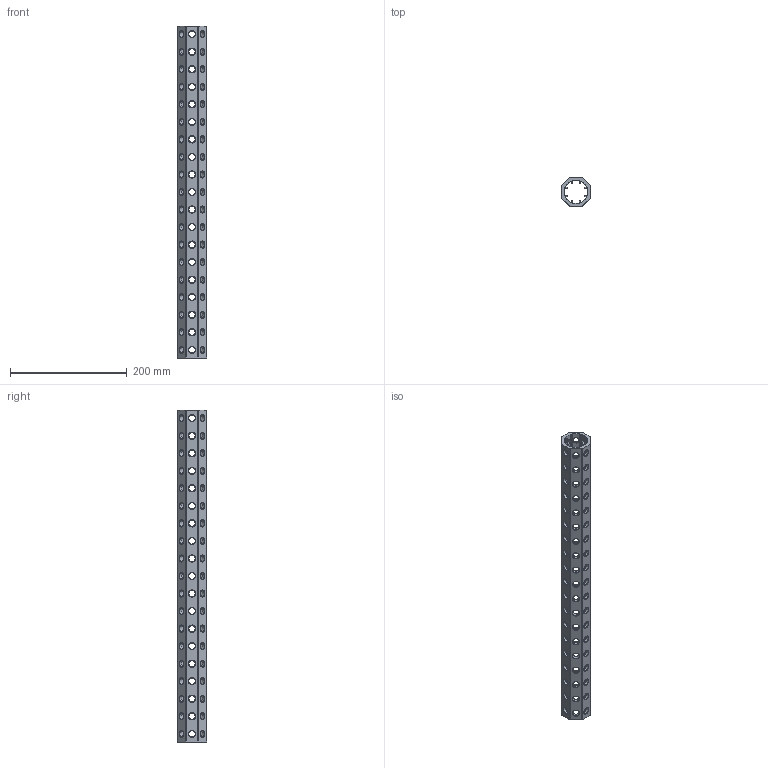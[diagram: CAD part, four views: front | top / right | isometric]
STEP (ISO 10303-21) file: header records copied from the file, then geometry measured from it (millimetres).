
FILE_DESCRIPTION(('CATIA V5 STEP Exchange'),'2;1');
FILE_NAME('U:\Room\唐宝山\EGT002\46-01-010248-01-EGT002-568.stp','2021-08-24T01:03:26+00:00',('none'),('none'),'CATIA Version 5 Release 21 GA (IN-10)','CATIA V5 STEP AP203','none');
FILE_SCHEMA(('CONFIG_CONTROL_DESIGN'));
Length unit declared in the file: millimetre
Products named in the file (1): 46-01-010248-01-EGT002-568
Bounding box: 50 x 50 x 568 mm (x, y, z)
Volume: 404507.5 mm3; surface area: 196309.3 mm2
Topology: 1 solids, 1 shells, 844 faces, 2336 edges, 1456 vertices
Faces by surface type: cone 456, cylinder 362, plane 26
Entity records: 35387 total; most frequent: CARTESIAN_POINT 14914, ORIENTED_EDGE 4672, DIRECTION 3278, EDGE_CURVE 2336, AXIS2_PLACEMENT_3D 1507, VERTEX_POINT 1456, EDGE_LOOP 1112, VECTOR 928
